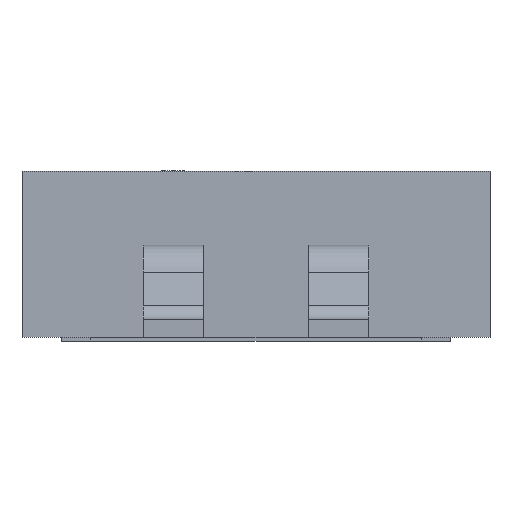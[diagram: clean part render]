
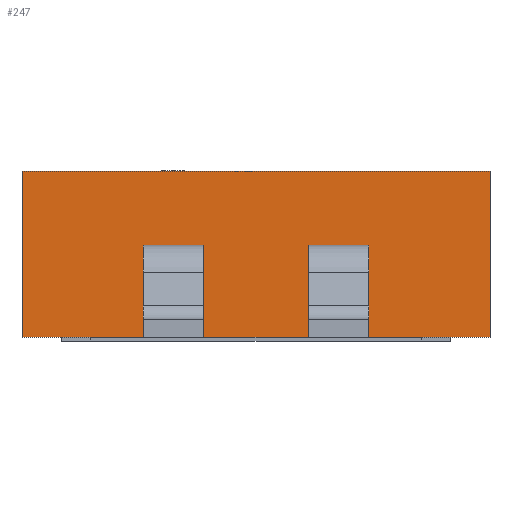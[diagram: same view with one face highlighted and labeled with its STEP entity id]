
A CAD part, front view. The second image highlights one B-rep face of the part: STEP entity #247.
In plain terms, the highlighted planar face has unit normal (0, -1, 0).
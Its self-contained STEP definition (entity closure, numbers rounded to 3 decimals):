
#247=ADVANCED_FACE('',(#253),#248,.T.);
#248=PLANE('',#249);
#249=AXIS2_PLACEMENT_3D('',#250,#251,#252);
#250=CARTESIAN_POINT('',(-3.251,-3.099,0.0));
#251=DIRECTION('',(0.0,-1.0,0.0));
#252=DIRECTION('',(0.,0.,1.));
#253=FACE_OUTER_BOUND('',#254,.T.);
#254=EDGE_LOOP('',(#255,#265,#275,#285));
#258=CARTESIAN_POINT('',(3.251,-3.099,0.0));
#257=VERTEX_POINT('',#258);
#260=CARTESIAN_POINT('',(-3.251,-3.099,0.0));
#259=VERTEX_POINT('',#260);
#256=EDGE_CURVE('',#257,#259,#261,.T.);
#261=LINE('',#258,#263);
#263=VECTOR('',#264,6.502);
#264=DIRECTION('',(-1.0,0.0,0.0));
#255=ORIENTED_EDGE('',*,*,#256,.F.);
#268=CARTESIAN_POINT('',(3.251,-3.099,2.311));
#267=VERTEX_POINT('',#268);
#266=EDGE_CURVE('',#267,#257,#271,.T.);
#271=LINE('',#268,#273);
#273=VECTOR('',#274,2.311);
#274=DIRECTION('',(0.0,0.0,-1.0));
#265=ORIENTED_EDGE('',*,*,#266,.F.);
#278=CARTESIAN_POINT('',(-3.251,-3.099,2.311));
#277=VERTEX_POINT('',#278);
#276=EDGE_CURVE('',#277,#267,#281,.T.);
#281=LINE('',#278,#283);
#283=VECTOR('',#284,6.502);
#284=DIRECTION('',(1.0,0.0,0.0));
#275=ORIENTED_EDGE('',*,*,#276,.F.);
#286=EDGE_CURVE('',#259,#277,#291,.T.);
#291=LINE('',#260,#293);
#293=VECTOR('',#294,2.311);
#294=DIRECTION('',(0.0,0.0,1.0));
#285=ORIENTED_EDGE('',*,*,#286,.F.);
